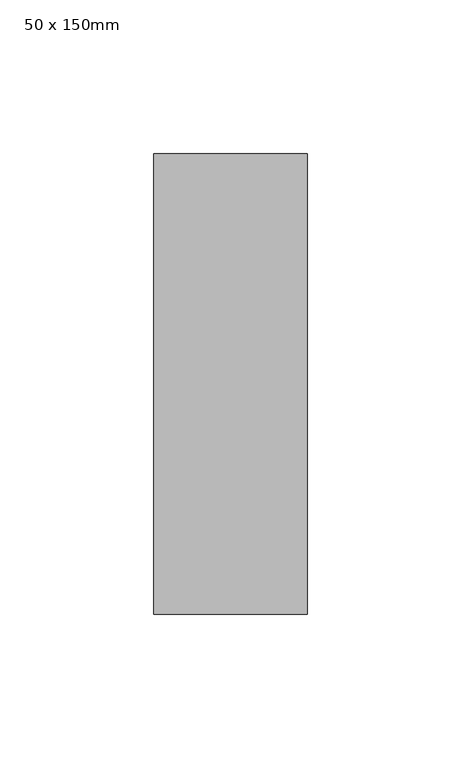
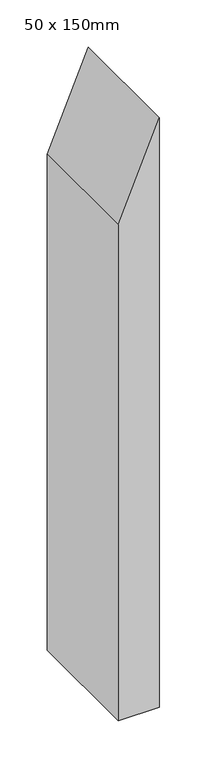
"""IFC4 building model written with IfcOpenShell, lengths in millimetres: member geometry, Prostokątny szpros : 50 x 150mm."""

from ifc_helpers import new_model, si_unit, frame, origin, place, context, project, spatial, polyline, outline, extrude, source, transform, mapped, element, save


def member_50_x_150mm_8f500088(model_context):
    return source(origin(), model_context, "Body", "SweptSolid", [
        extrude(outline(polyline([(0.0, 0.0), (-120.7106781, -50.0), (-760.1397899, -50.0), (-760.1397899, 0.0), (0.0, 0.0)])), frame((0.0, -75.0, 0.0), z_axis=(0.0, 1.0, 0.0), x_axis=(0.0, 0.0, 1.0)), (0.0, 0.0, 1.0), 150.0),
    ])


if __name__ == "__main__":
    model = new_model("IFC4")
    model_context = context("Model", 3, world=origin())
    ifc_project = project(units=[si_unit("LENGTHUNIT", "METRE", prefix="MILLI")], contexts=[model_context])
    site = spatial("IfcSite", under=ifc_project)
    building = spatial("IfcBuilding", under=site)
    placement = place(None, origin())
    member_50_x_150mm_shape = member_50_x_150mm_8f500088(model_context)
    element("IfcMember", 1, ObjectType="Prostokątny szpros : 50 x 150mm", at=placement, inside=building, context=model_context, shape_type="MappedRepresentation", body=[
        mapped(member_50_x_150mm_shape, transform((0.0, 0.0, 0.0), x_axis=(1.0, 0.0, 0.0), y_axis=(0.0, 1.0, 0.0), z_axis=(0.0, 0.0, 1.0))),
    ])
    save(model, "model.ifc")
